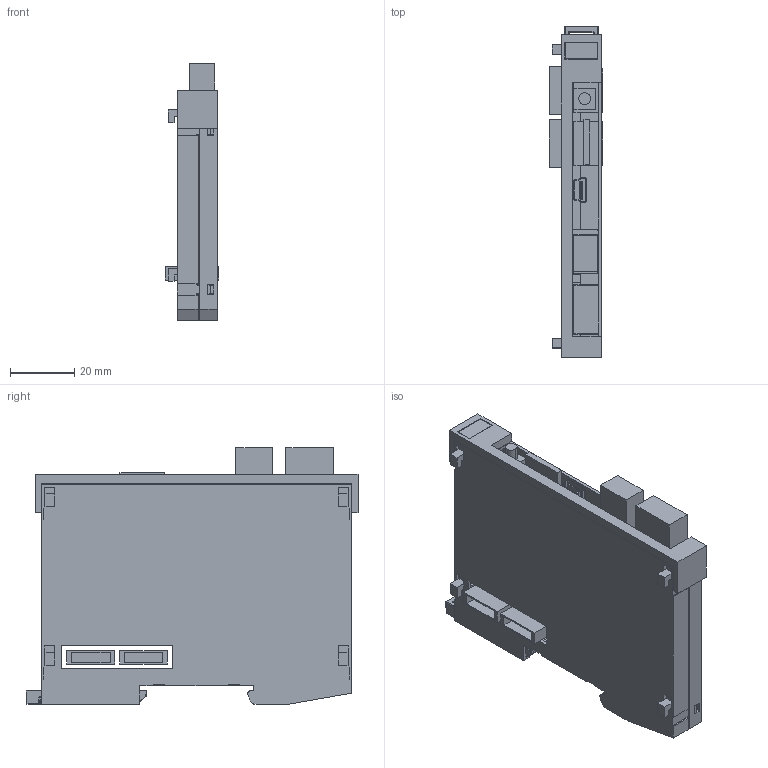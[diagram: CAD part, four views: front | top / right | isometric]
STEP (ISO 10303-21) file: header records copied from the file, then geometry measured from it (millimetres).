
FILE_DESCRIPTION (( 'STEP AP214' ), '1' );
FILE_NAME ('SCP011 support.STEP', '2015-07-06T12:47:54', ( 'SIGMATEK GmbH & Co KG' ), ( 'SIGMATEK GmbH & Co KG' ), 'SwSTEP 2.0', 'SolidWorks 2013', '' );
FILE_SCHEMA (( 'AUTOMOTIVE_DESIGN' ));
Length unit declared in the file: millimetre
Products named in the file (16): Dummy_4110251205 4pol.Minicombicon-Grundgehäuse RM3,5 1937512; SCP011 support; 4110251342_MF 10-5 MC CABUR_1854510000; Schieber_f Suport; S-Dias Rasthaken 20130313; Dummy_4080225241 MINI USB; S-Dias Schale rechts_f Suport 2 Stecker; Dummy_4080225147 & 751771034 Micro SD Connector incl. SD-Card; Dummy_4080225345 Erni Buchse; S-Dias Schale links_f Suport 2 Stecker; Dummy_7297771206_TA3_1W2_V_T_R; Dummy____________fmc_1.5 3pol 1952296; Dummy_4110262104 4pol.Federkraftstecker f.2reih 1952283; Dummy_4080225346 Erni Stift; Dummy_4110251244 3pol.Mini-Combic.Steckergrundg. RM 3,5 1844223; LP_SCP011
Assembly tree (17 placements, depth 3):
  SCP011 support
    4110251342_MF 10-5 MC CABUR_1854510000
    S-Dias Schale links_f Suport 2 Stecker
    S-Dias Schale rechts_f Suport 2 Stecker
    Schieber_f Suport
    S-Dias Rasthaken 20130313
    LP_SCP011
      Dummy_4080225241 MINI USB
      Dummy_4080225147 & 751771034 Micro SD Connector incl. SD-Card
      Dummy_4080225346 Erni Stift  x2
      Dummy_4080225345 Erni Buchse  x2
      Dummy_4110251205 4pol.Minicombicon-Grundgehäuse RM3,5 1937512
      Dummy_4110251244 3pol.Mini-Combic.Steckergrundg. RM 3,5 1844223
      Dummy_4110262104 4pol.Federkraftstecker f.2reih 1952283
      Dummy____________fmc_1.5 3pol 1952296
      Dummy_7297771206_TA3_1W2_V_T_R
Bounding box: 16.8 x 103.61 x 80.15 mm (x, y, z)
Volume: 26745.7 mm3; surface area: 43658.6 mm2
Topology: 16 solids, 16 shells, 870 faces, 2487 edges, 1638 vertices
Faces by surface type: plane 593, cylinder 158, bspline 55, cone 28, torus 19, sphere 17
Entity records: 32802 total; most frequent: CARTESIAN_POINT 7595, ORIENTED_EDGE 4828, DIRECTION 3887, EDGE_CURVE 2414, LINE 1701, VECTOR 1701, VERTEX_POINT 1598, AXIS2_PLACEMENT_3D 1093
